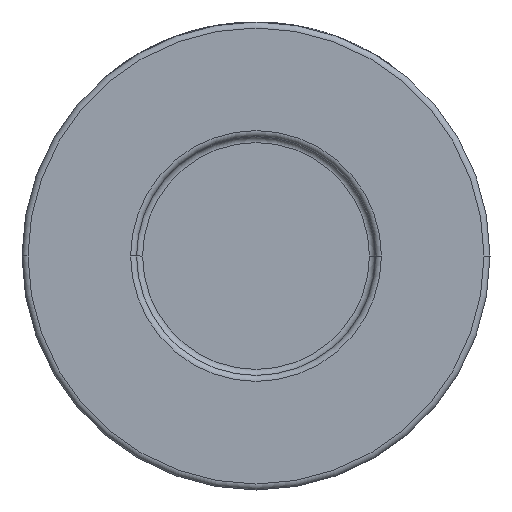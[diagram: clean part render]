
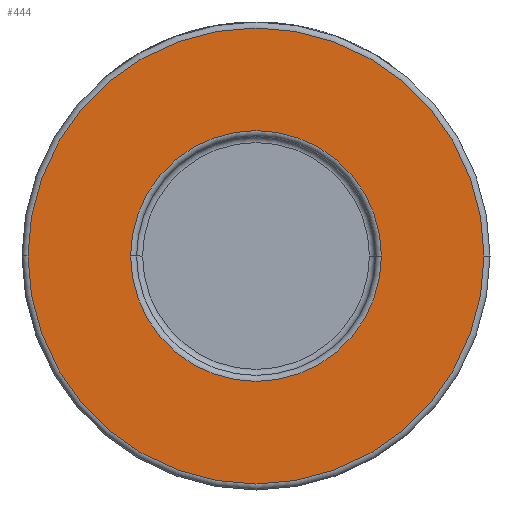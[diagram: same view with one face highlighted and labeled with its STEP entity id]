
A CAD part, front view. The second image highlights one B-rep face of the part: STEP entity #444.
In plain terms, the highlighted planar face has unit normal (0, -1, 0).
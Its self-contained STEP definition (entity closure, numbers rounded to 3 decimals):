
#33 = VERTEX_POINT ( 'NONE', #2987 ) ;
#39 = CARTESIAN_POINT ( 'NONE',  ( 0., -26., 0. ) ) ;
#121 = CARTESIAN_POINT ( 'NONE',  ( -38., -26., 0. ) ) ;
#165 = EDGE_CURVE ( 'NONE', #2601, #3352, #4004, .T. ) ;
#251 = FACE_OUTER_BOUND ( 'NONE', #959, .T. ) ;
#444 = ADVANCED_FACE ( 'NONE', ( #1409, #251 ), #2836, .T. ) ;
#521 = DIRECTION ( 'NONE',  ( 1., 0., 0. ) ) ;
#726 = ORIENTED_EDGE ( 'NONE', *, *, #2084, .T. ) ;
#865 = DIRECTION ( 'NONE',  ( 1., 0., 0. ) ) ;
#959 = EDGE_LOOP ( 'NONE', ( #726, #3776 ) ) ;
#1018 = AXIS2_PLACEMENT_3D ( 'NONE', #4067, #3749, #865 ) ;
#1068 = CARTESIAN_POINT ( 'NONE',  ( 0., -26., 0. ) ) ;
#1100 = DIRECTION ( 'NONE',  ( 0., -1., 0. ) ) ;
#1133 = VERTEX_POINT ( 'NONE', #121 ) ;
#1197 = CIRCLE ( 'NONE', #2905, 38. ) ;
#1213 = ORIENTED_EDGE ( 'NONE', *, *, #4571, .T. ) ;
#1409 = FACE_BOUND ( 'NONE', #2116, .T. ) ;
#1689 = CARTESIAN_POINT ( 'NONE',  ( 39., -26., 0. ) ) ;
#1716 = AXIS2_PLACEMENT_3D ( 'NONE', #39, #4048, #3953 ) ;
#1795 = CIRCLE ( 'NONE', #3580, 38. ) ;
#2084 = EDGE_CURVE ( 'NONE', #33, #1133, #1197, .T. ) ;
#2116 = EDGE_LOOP ( 'NONE', ( #3715, #1213 ) ) ;
#2140 = AXIS2_PLACEMENT_3D ( 'NONE', #1689, #1100, #3111 ) ;
#2156 = CIRCLE ( 'NONE', #1716, 20.9 ) ;
#2372 = DIRECTION ( 'NONE',  ( 0., -1., 0. ) ) ;
#2553 = EDGE_CURVE ( 'NONE', #1133, #33, #1795, .T. ) ;
#2601 = VERTEX_POINT ( 'NONE', #4319 ) ;
#2836 = PLANE ( 'NONE',  #2140 ) ;
#2905 = AXIS2_PLACEMENT_3D ( 'NONE', #1068, #3570, #3159 ) ;
#2987 = CARTESIAN_POINT ( 'NONE',  ( 38., -26., 0. ) ) ;
#3111 = DIRECTION ( 'NONE',  ( 1., 0., 0. ) ) ;
#3159 = DIRECTION ( 'NONE',  ( 1., 0., 0. ) ) ;
#3352 = VERTEX_POINT ( 'NONE', #3832 ) ;
#3570 = DIRECTION ( 'NONE',  ( 0., -1., 0. ) ) ;
#3580 = AXIS2_PLACEMENT_3D ( 'NONE', #4147, #2372, #521 ) ;
#3715 = ORIENTED_EDGE ( 'NONE', *, *, #165, .T. ) ;
#3749 = DIRECTION ( 'NONE',  ( 0., 1., 0. ) ) ;
#3776 = ORIENTED_EDGE ( 'NONE', *, *, #2553, .T. ) ;
#3832 = CARTESIAN_POINT ( 'NONE',  ( -20.9, -26., 0. ) ) ;
#3953 = DIRECTION ( 'NONE',  ( 1., 0., 0. ) ) ;
#4004 = CIRCLE ( 'NONE', #1018, 20.9 ) ;
#4048 = DIRECTION ( 'NONE',  ( 0., 1., 0. ) ) ;
#4067 = CARTESIAN_POINT ( 'NONE',  ( 0., -26., 0. ) ) ;
#4147 = CARTESIAN_POINT ( 'NONE',  ( 0., -26., 0. ) ) ;
#4319 = CARTESIAN_POINT ( 'NONE',  ( 20.9, -26., 0. ) ) ;
#4571 = EDGE_CURVE ( 'NONE', #3352, #2601, #2156, .T. ) ;
